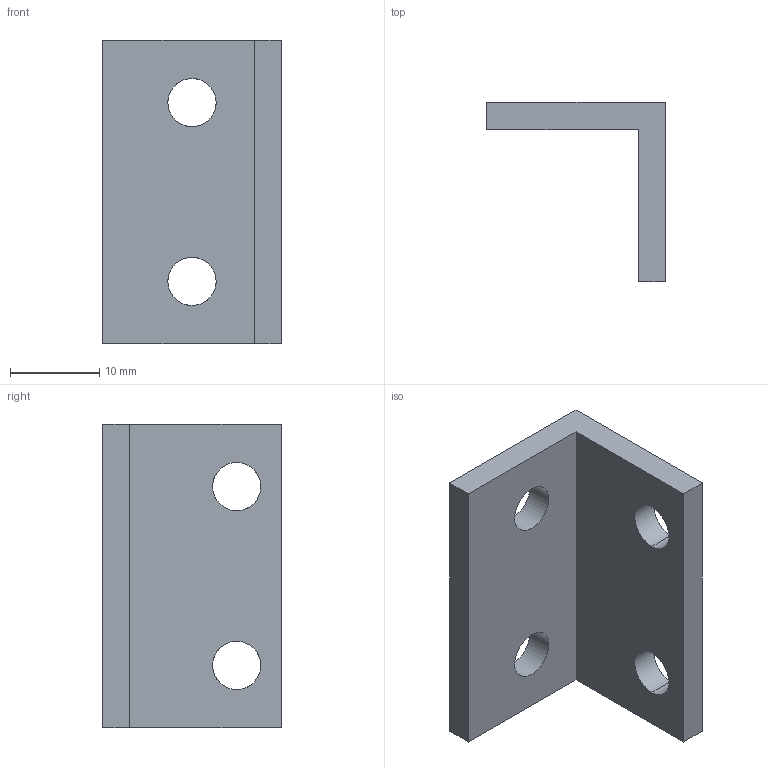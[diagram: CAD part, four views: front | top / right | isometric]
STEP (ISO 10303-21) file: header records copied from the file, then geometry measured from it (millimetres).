
FILE_DESCRIPTION(/* description */ (''),/* implementation_level */ '2;1');
FILE_NAME(/* name */ '6.y-drive#6.9#HBLSD5',/* time_stamp */ '2014-12-01T20:16:09+01:00',/* author */ (''),/* organization */ (''),/* preprocessor_version */ 'ST-DEVELOPER v14',/* originating_system */ '',/* authorisation */ '');
FILE_SCHEMA (('AUTOMOTIVE_DESIGN'));
Length unit declared in the file: millimetre
Products named in the file (1): Document
Bounding box: 20 x 20 x 34 mm (x, y, z)
Volume: 3498.5 mm3; surface area: 2962.2 mm2
Topology: 1 solids, 1 shells, 16 faces, 42 edges, 28 vertices
Faces by surface type: plane 8, bspline 8
Entity records: 4034 total; most frequent: CARTESIAN_POINT 3441, B_SPLINE_CURVE_WITH_KNOTS 110, ORIENTED_EDGE 84, PCURVE 84, DEFINITIONAL_REPRESENTATION 84, SURFACE_CURVE 42, EDGE_CURVE 42, VERTEX_POINT 28
